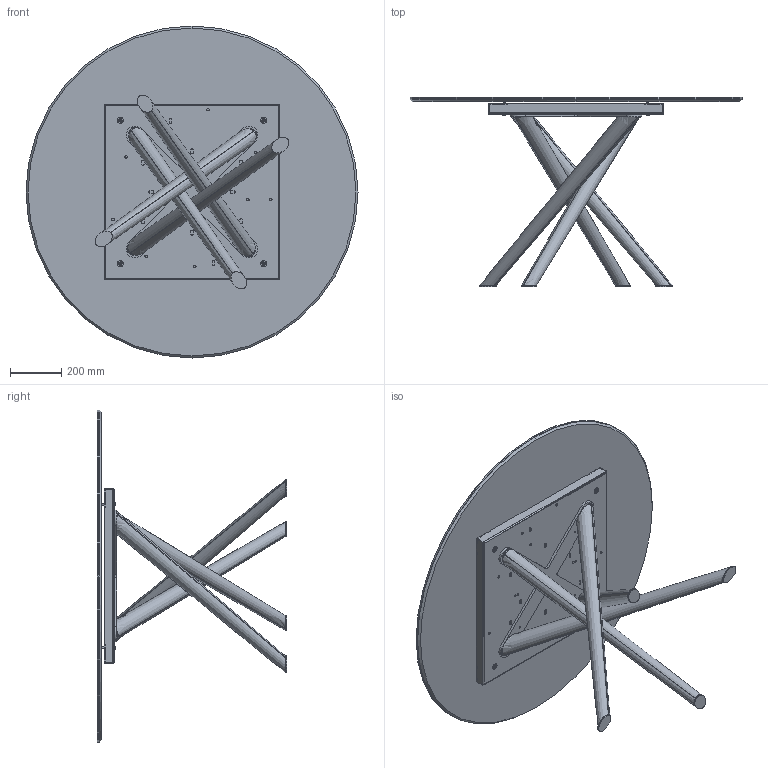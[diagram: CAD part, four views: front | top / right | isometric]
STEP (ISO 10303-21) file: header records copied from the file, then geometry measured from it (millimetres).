
FILE_DESCRIPTION (( 'STEP AP203' ), '1' );
FILE_NAME ('BA05C.STEP', '2024-08-08T06:34:18', ( '' ), ( '' ), 'SwSTEP 2.0', 'SolidWorks 2022', '' );
FILE_SCHEMA (( 'CONFIG_CONTROL_DESIGN' ));
Length unit declared in the file: millimetre
Products named in the file (12): rondella M8_8X24; BAB000000_01-00-Croce Superiore baly; TTAV0801-02-TELAIO UNIVERSALE TONDO; COLLO TELAIO UNIVERSALE TTAV0801 CON FERRAMENTA_MTG TOP LEGNO-MARMO-KING; TTAV0801-02-TELAIO UNIVERSALE TONDO-VASSOIO; Parte5^BAB000000-00-BALY BASE GREZZA; TTAV0801 TELAIO UNIVERSALE TONDO-PIASTRINA; K1XCMXX-00-Piani Rotondi in ceramica_D.1300; BAB000000-00-BALY BASE GREZZA; BAB000000_02-00-basamento pali conificati; BA05C; M8xXXmm_M8x55mm
Assembly tree (20 placements, depth 4):
  BA05C
    K1XCMXX-00-Piani Rotondi in ceramica_D.1300
    BAB000000-00-BALY BASE GREZZA
      BAB000000_01-00-Croce Superiore baly
      BAB000000_02-00-basamento pali conificati
      Parte5^BAB000000-00-BALY BASE GREZZA
    COLLO TELAIO UNIVERSALE TTAV0801 CON FERRAMENTA_MTG TOP LEGNO-MARMO-KING
      TTAV0801-02-TELAIO UNIVERSALE TONDO
        TTAV0801-02-TELAIO UNIVERSALE TONDO-VASSOIO
        TTAV0801 TELAIO UNIVERSALE TONDO-PIASTRINA  x4
      rondella M8_8X24  x4
      M8xXXmm_M8x55mm  x4
Bounding box: 1300 x 741 x 1300 mm (x, y, z)
Volume: 25784752.6 mm3; surface area: 8168288.8 mm2
Topology: 24 solids, 24 shells, 691 faces, 1771 edges, 1124 vertices
Faces by surface type: plane 312, cylinder 261, cone 62, torus 48, bspline 8
Entity records: 16595 total; most frequent: CARTESIAN_POINT 4092, DIRECTION 2327, ORIENTED_EDGE 2272, EDGE_CURVE 1136, AXIS2_PLACEMENT_3D 823, VERTEX_POINT 734, LINE 681, VECTOR 681
